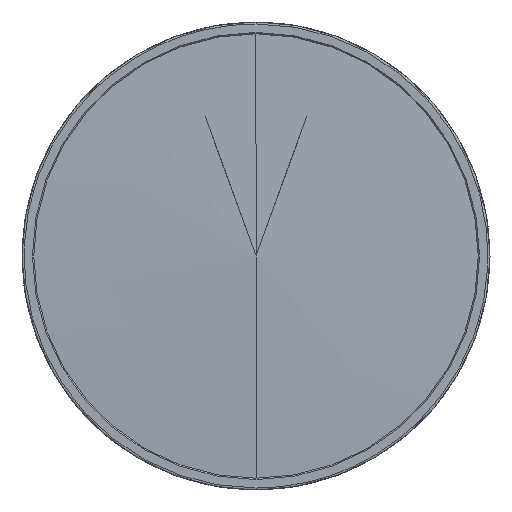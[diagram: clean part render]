
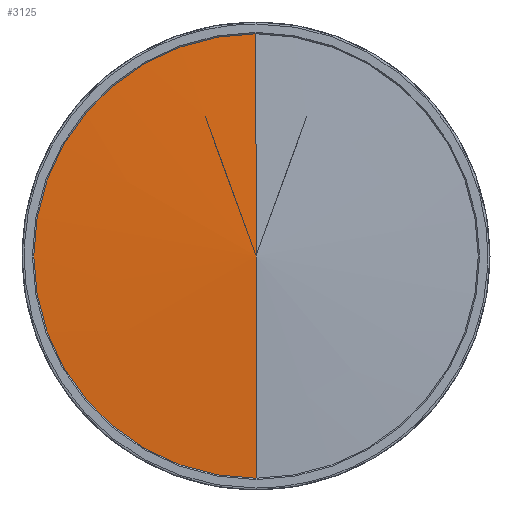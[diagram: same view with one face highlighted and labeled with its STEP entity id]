
A CAD part, left-side view. The second image highlights one B-rep face of the part: STEP entity #3125.
In plain terms, the highlighted conical face has half-angle 87.538 degrees and reference radius 176.207 mm.
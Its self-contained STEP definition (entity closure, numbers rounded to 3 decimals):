
#119 = CIRCLE ( 'NONE', #4175, 170. ) ;
#188 = DIRECTION ( 'NONE',  ( 1., 0., 0. ) ) ;
#548 = CARTESIAN_POINT ( 'NONE',  ( 7.308, 0., 0. ) ) ;
#598 = CARTESIAN_POINT ( 'NONE',  ( 7.575, 0., 0. ) ) ;
#796 = ORIENTED_EDGE ( 'NONE', *, *, #6001, .F. ) ;
#1228 = ORIENTED_EDGE ( 'NONE', *, *, #3375, .F. ) ;
#1291 = VERTEX_POINT ( 'NONE', #5786 ) ;
#1297 = CONICAL_SURFACE ( 'NONE', #2446, 176.207, 1.528 ) ;
#1498 = CARTESIAN_POINT ( 'NONE',  ( 0., 0., 0. ) ) ;
#1798 = CARTESIAN_POINT ( 'NONE',  ( 7.308, 170., 0. ) ) ;
#1966 = DIRECTION ( 'NONE',  ( 0.043, 0., -0.999 ) ) ;
#2000 = CIRCLE ( 'NONE', #4522, 170. ) ;
#2085 = VECTOR ( 'NONE', #4597, 1000. ) ;
#2206 = CARTESIAN_POINT ( 'NONE',  ( 7.308, 0., 0. ) ) ;
#2228 = DIRECTION ( 'NONE',  ( 0., 0., -1. ) ) ;
#2446 = AXIS2_PLACEMENT_3D ( 'NONE', #598, #4134, #5743 ) ;
#2646 = DIRECTION ( 'NONE',  ( 0., 0., -1. ) ) ;
#2670 = CARTESIAN_POINT ( 'NONE',  ( 7.575, 0., 176.207 ) ) ;
#3125 = ADVANCED_FACE ( 'NONE', ( #4361 ), #1297, .T. ) ;
#3195 = EDGE_CURVE ( 'NONE', #5905, #1291, #119, .T. ) ;
#3375 = EDGE_CURVE ( 'NONE', #5043, #5905, #2000, .T. ) ;
#3796 = CARTESIAN_POINT ( 'NONE',  ( 7.308, 0., -170. ) ) ;
#3826 = EDGE_CURVE ( 'NONE', #4124, #1291, #5487, .T. ) ;
#4124 = VERTEX_POINT ( 'NONE', #1498 ) ;
#4134 = DIRECTION ( 'NONE',  ( 1., 0., 0. ) ) ;
#4175 = AXIS2_PLACEMENT_3D ( 'NONE', #548, #6246, #2646 ) ;
#4361 = FACE_OUTER_BOUND ( 'NONE', #4787, .T. ) ;
#4522 = AXIS2_PLACEMENT_3D ( 'NONE', #2206, #188, #2228 ) ;
#4597 = DIRECTION ( 'NONE',  ( 0.043, 0., 0.999 ) ) ;
#4787 = EDGE_LOOP ( 'NONE', ( #796, #5643, #4839, #1228 ) ) ;
#4839 = ORIENTED_EDGE ( 'NONE', *, *, #3195, .F. ) ;
#5006 = CARTESIAN_POINT ( 'NONE',  ( 7.575, 0., -176.207 ) ) ;
#5043 = VERTEX_POINT ( 'NONE', #3796 ) ;
#5487 = LINE ( 'NONE', #2670, #2085 ) ;
#5643 = ORIENTED_EDGE ( 'NONE', *, *, #3826, .T. ) ;
#5743 = DIRECTION ( 'NONE',  ( 0., 0., -1. ) ) ;
#5786 = CARTESIAN_POINT ( 'NONE',  ( 7.308, 0., 170. ) ) ;
#5905 = VERTEX_POINT ( 'NONE', #1798 ) ;
#6001 = EDGE_CURVE ( 'NONE', #4124, #5043, #6583, .T. ) ;
#6246 = DIRECTION ( 'NONE',  ( 1., 0., 0. ) ) ;
#6370 = VECTOR ( 'NONE', #1966, 1000. ) ;
#6583 = LINE ( 'NONE', #5006, #6370 ) ;
